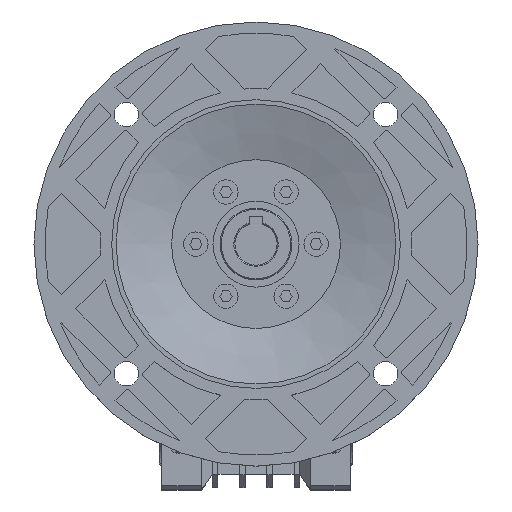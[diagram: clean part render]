
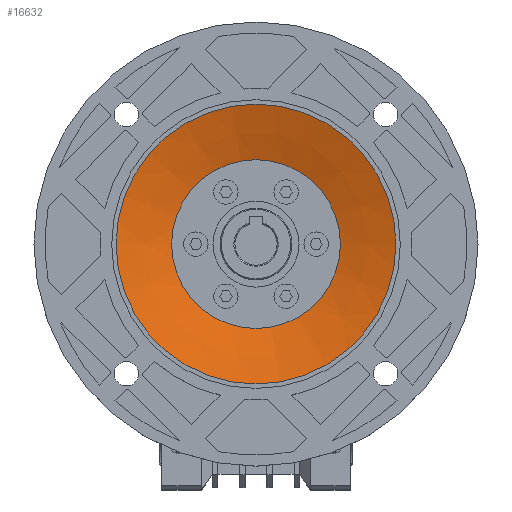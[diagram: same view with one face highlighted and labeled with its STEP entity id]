
A CAD part, top view. The second image highlights one B-rep face of the part: STEP entity #16632.
In plain terms, the highlighted conical face has half-angle 73.301 degrees and reference radius 38 mm.
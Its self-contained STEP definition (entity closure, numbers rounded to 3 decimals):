
#119=CONICAL_SURFACE('',#18158,38.,1.279);
#1669=LINE('',#27717,#3209);
#3209=VECTOR('',#22662,38.);
#4495=FACE_OUTER_BOUND('',#5492,.T.);
#5492=EDGE_LOOP('',(#14261,#14262,#14263,#14264));
#6113=CIRCLE('',#18145,63.);
#6120=CIRCLE('',#18159,38.);
#7584=VERTEX_POINT('',#27691);
#7591=VERTEX_POINT('',#27715);
#9818=EDGE_CURVE('',#7584,#7584,#6113,.T.);
#9828=EDGE_CURVE('',#7591,#7591,#6120,.T.);
#9829=EDGE_CURVE('',#7591,#7584,#1669,.T.);
#14261=ORIENTED_EDGE('',*,*,#9828,.T.);
#14262=ORIENTED_EDGE('',*,*,#9829,.T.);
#14263=ORIENTED_EDGE('',*,*,#9818,.F.);
#14264=ORIENTED_EDGE('',*,*,#9829,.F.);
#16632=ADVANCED_FACE('',(#4495),#119,.F.);
#18145=AXIS2_PLACEMENT_3D('',#27692,#22629,#22630);
#18158=AXIS2_PLACEMENT_3D('',#27714,#22658,#22659);
#18159=AXIS2_PLACEMENT_3D('',#27716,#22660,#22661);
#22629=DIRECTION('center_axis',(0.,0.,
-1.));
#22630=DIRECTION('ref_axis',(-1.,0.,0.));
#22658=DIRECTION('center_axis',(0.,0.,
1.));
#22659=DIRECTION('ref_axis',(1.,0.,0.));
#22660=DIRECTION('center_axis',(0.,0.,
-1.));
#22661=DIRECTION('ref_axis',(-1.,0.,0.));
#22662=DIRECTION('',(-0.958,0.,0.287));
#27691=CARTESIAN_POINT('',(79.763,223.623,200.862));
#27692=CARTESIAN_POINT('Origin',(142.763,223.623,200.862));
#27714=CARTESIAN_POINT('Origin',(142.763,223.623,193.362));
#27715=CARTESIAN_POINT('',(104.763,223.623,193.362));
#27716=CARTESIAN_POINT('Origin',(142.763,223.623,193.362));
#27717=CARTESIAN_POINT('',(104.763,223.623,193.362));
